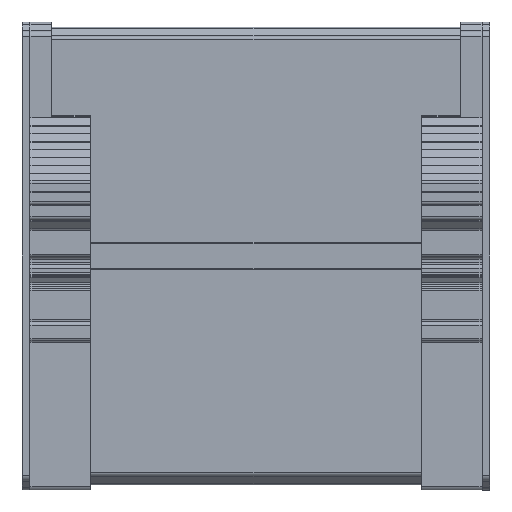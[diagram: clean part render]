
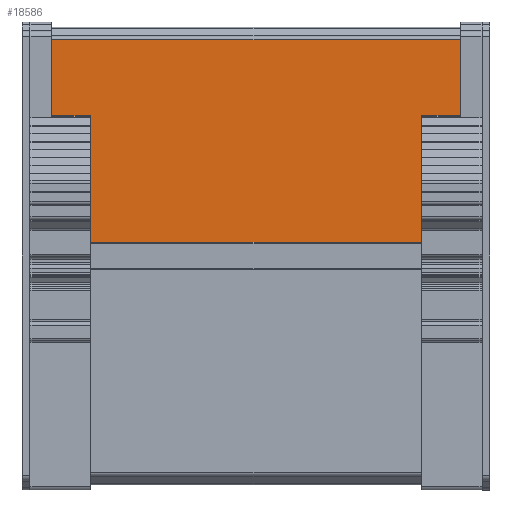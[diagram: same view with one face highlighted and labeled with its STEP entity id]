
A CAD part, front view. The second image highlights one B-rep face of the part: STEP entity #18586.
In plain terms, the highlighted planar face has unit normal (0, -1, 0) as drawn and (0, 0, -1) by its records, which use the part's own axes.
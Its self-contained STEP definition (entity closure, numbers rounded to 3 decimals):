
#8157 = VERTEX_POINT ( 'NONE', #16496 ) ;
#8196 = VECTOR ( 'NONE', #162866, 1000. ) ;
#11115 = DIRECTION ( 'NONE',  ( 1., 0., 0. ) ) ;
#12066 = VERTEX_POINT ( 'NONE', #156551 ) ;
#14172 = LINE ( 'NONE', #97334, #164121 ) ;
#16496 = CARTESIAN_POINT ( 'NONE',  ( 55.5, 56., 2. ) ) ;
#17016 = ORIENTED_EDGE ( 'NONE', *, *, #74479, .T. ) ;
#18586 = ADVANCED_FACE ( 'NONE', ( #75396 ), #45522, .T. ) ;
#22370 = EDGE_CURVE ( 'NONE', #8157, #12066, #163275, .T. ) ;
#27673 = VERTEX_POINT ( 'NONE', #162464 ) ;
#45522 = PLANE ( 'NONE',  #169886 ) ;
#56687 = EDGE_CURVE ( 'NONE', #153390, #12066, #131632, .T. ) ;
#66428 = CARTESIAN_POINT ( 'NONE',  ( 2.961, -53., 2. ) ) ;
#72898 = LINE ( 'NONE', #109981, #8196 ) ;
#74479 = EDGE_CURVE ( 'NONE', #27673, #8157, #14172, .T. ) ;
#75396 = FACE_OUTER_BOUND ( 'NONE', #134782, .T. ) ;
#76560 = ORIENTED_EDGE ( 'NONE', *, *, #22370, .T. ) ;
#83945 = CARTESIAN_POINT ( 'NONE',  ( 55.5, -53., 2. ) ) ;
#85727 = CARTESIAN_POINT ( 'NONE',  ( 2.961, -53., 2. ) ) ;
#92380 = VECTOR ( 'NONE', #149599, 1000. ) ;
#96333 = VECTOR ( 'NONE', #11115, 1000. ) ;
#96403 = ORIENTED_EDGE ( 'NONE', *, *, #56687, .F. ) ;
#97334 = CARTESIAN_POINT ( 'NONE',  ( -50.095, 56., 2. ) ) ;
#98566 = DIRECTION ( 'NONE',  ( -1., 0., 0. ) ) ;
#99147 = DIRECTION ( 'NONE',  ( 0., 0., -1. ) ) ;
#109845 = ORIENTED_EDGE ( 'NONE', *, *, #162677, .T. ) ;
#109981 = CARTESIAN_POINT ( 'NONE',  ( 2.961, -53., 2. ) ) ;
#111799 = DIRECTION ( 'NONE',  ( 1., 0., 0. ) ) ;
#117037 = CARTESIAN_POINT ( 'NONE',  ( -50.095, -53., 2. ) ) ;
#131632 = LINE ( 'NONE', #117037, #96333 ) ;
#134782 = EDGE_LOOP ( 'NONE', ( #96403, #109845, #17016, #76560 ) ) ;
#149599 = DIRECTION ( 'NONE',  ( 0., -1., 0. ) ) ;
#153390 = VERTEX_POINT ( 'NONE', #66428 ) ;
#156551 = CARTESIAN_POINT ( 'NONE',  ( 55.5, -53., 2. ) ) ;
#162464 = CARTESIAN_POINT ( 'NONE',  ( 2.961, 56., 2. ) ) ;
#162677 = EDGE_CURVE ( 'NONE', #153390, #27673, #72898, .T. ) ;
#162866 = DIRECTION ( 'NONE',  ( 0., 1., 0. ) ) ;
#163275 = LINE ( 'NONE', #83945, #92380 ) ;
#164121 = VECTOR ( 'NONE', #111799, 1000. ) ;
#169886 = AXIS2_PLACEMENT_3D ( 'NONE', #85727, #99147, #98566 ) ;
